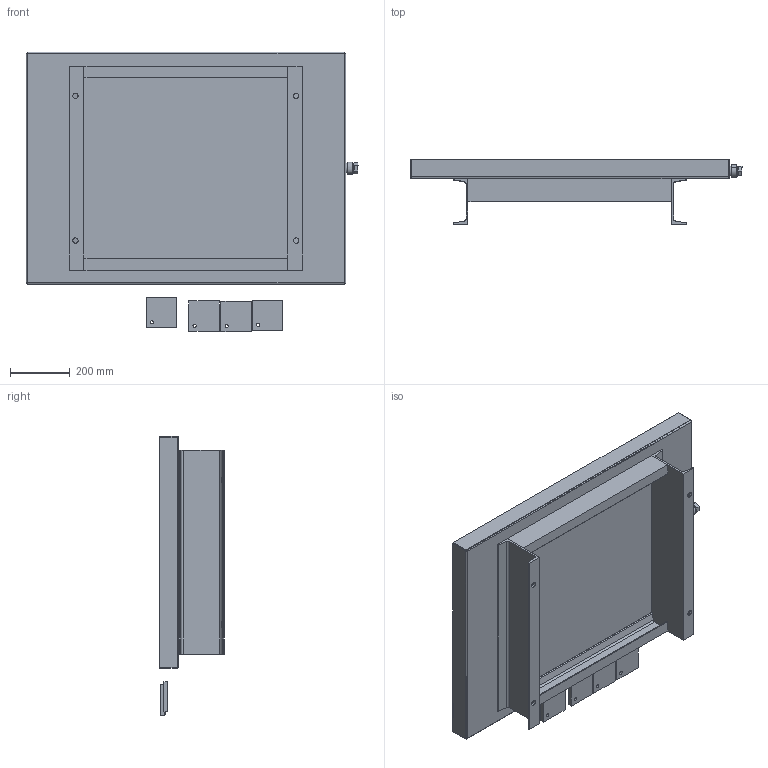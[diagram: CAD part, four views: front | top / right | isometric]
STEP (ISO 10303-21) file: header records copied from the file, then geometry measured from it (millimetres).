
FILE_DESCRIPTION (( 'STEP AP214' ), '1' );
FILE_NAME ('TDP-30-40-50.STEP', '2026-04-22T10:58:08', ( '' ), ( '' ), 'SwSTEP 2.0', 'SolidWorks 2026', '' );
FILE_SCHEMA (( 'AUTOMOTIVE_DESIGN' ));
Length unit declared in the file: inch
Products named in the file (7): C6-TDP-30-40-50_Default<As Welded>; TDP-30-40-50; TDP-PAD; #12 SAE PLUG; C3-TDP-30-40-50_Default<As Welded>; #12 SAE DRAIN
Assembly tree (11 placements, depth 2):
  TDP-30-40-50
    TDP-30-40-50
    C6-TDP-30-40-50_Default<As Welded>  x2
    C3-TDP-30-40-50_Default<As Welded>  x2
    #12 SAE DRAIN
    #12 SAE PLUG
    TDP-PAD  x4
Bounding box: 1108.08 x 215.9 x 933.19 mm (x, y, z)
Volume: 7664149.1 mm3; surface area: 3232845.6 mm2
Topology: 11 solids, 11 shells, 163 faces, 378 edges, 240 vertices
Faces by surface type: plane 99, cylinder 50, bspline 8, cone 6
Entity records: 3752 total; most frequent: CARTESIAN_POINT 1105, DIRECTION 498, ORIENTED_EDGE 480, EDGE_CURVE 240, VECTOR 168, LINE 168, AXIS2_PLACEMENT_3D 165, VERTEX_POINT 148
